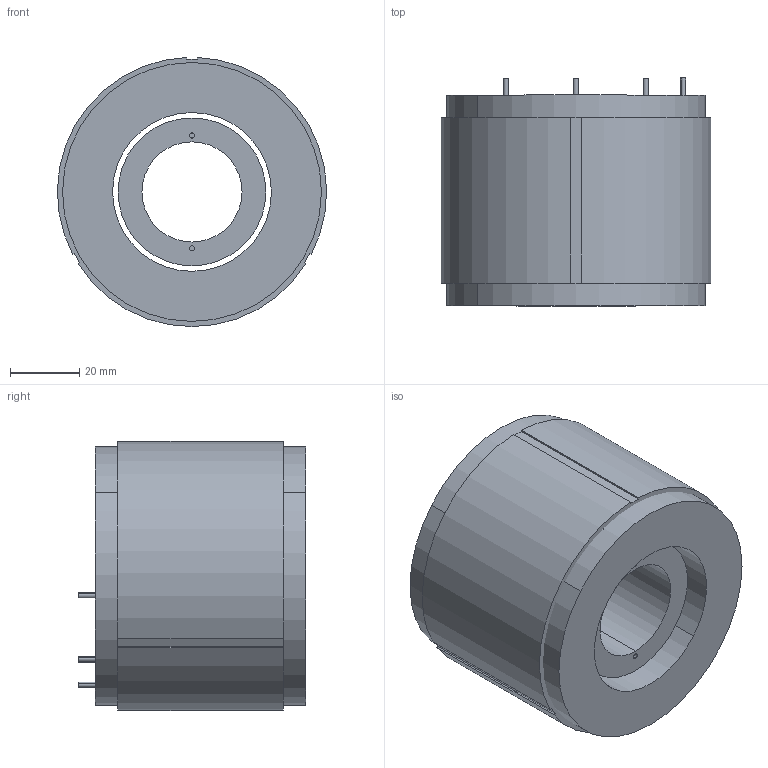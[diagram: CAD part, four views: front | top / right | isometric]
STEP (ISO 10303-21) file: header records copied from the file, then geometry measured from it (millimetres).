
FILE_DESCRIPTION (( 'STEP AP203' ), '1' );
FILE_NAME ('TM78-60 KIT 3D.STEP', '2021-06-18T06:57:08', ( '' ), ( '' ), 'SwSTEP 2.0', 'SolidWorks 2021', '' );
FILE_SCHEMA (( 'CONFIG_CONTROL_DESIGN' ));
Length unit declared in the file: millimetre
Products named in the file (1): TM78-60 KIT 3D
Bounding box: 77.99 x 66 x 77.97 mm (x, y, z)
Volume: 242930.1 mm3; surface area: 66262.1 mm2
Topology: 3 solids, 3 shells, 110 faces, 288 edges, 192 vertices
Faces by surface type: cylinder 69, plane 41
Entity records: 3535 total; most frequent: DIRECTION 648, CARTESIAN_POINT 591, ORIENTED_EDGE 576, EDGE_CURVE 288, AXIS2_PLACEMENT_3D 249, VERTEX_POINT 192, VECTOR 150, LINE 150
